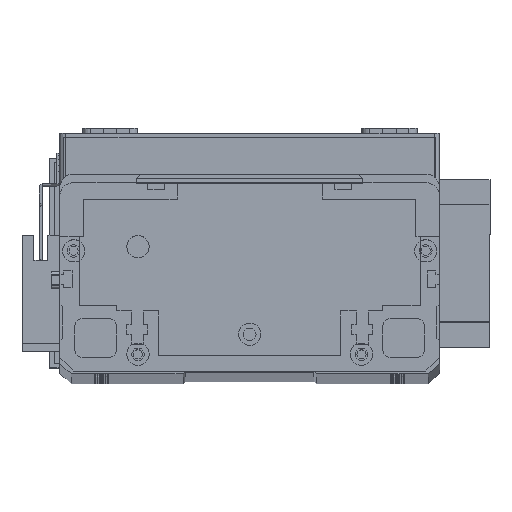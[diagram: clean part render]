
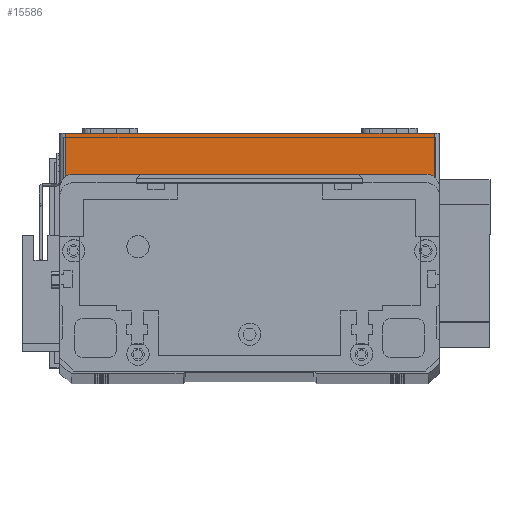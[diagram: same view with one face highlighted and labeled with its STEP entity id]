
A CAD part, top view. The second image highlights one B-rep face of the part: STEP entity #15586.
In plain terms, the highlighted planar face has unit normal (0, 0, 1) as drawn and (0, -1, 0) by its records, which use the part's own axes.
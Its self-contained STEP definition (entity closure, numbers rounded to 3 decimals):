
#287 = DIRECTION ( 'NONE',  ( 0., 0., 1. ) ) ;
#359 = DIRECTION ( 'NONE',  ( 0., 1., 0. ) ) ;
#469 = VERTEX_POINT ( 'NONE', #19975 ) ;
#1816 = EDGE_CURVE ( 'NONE', #12467, #21731, #5143, .T. ) ;
#3624 = CARTESIAN_POINT ( 'NONE',  ( 2., 0., 19.5 ) ) ;
#4940 = CARTESIAN_POINT ( 'NONE',  ( 0., 0., 19.5 ) ) ;
#5143 = LINE ( 'NONE', #21959, #17547 ) ;
#7215 = CARTESIAN_POINT ( 'NONE',  ( 134., 0., 19.5 ) ) ;
#7517 = VERTEX_POINT ( 'NONE', #17898 ) ;
#7663 = VECTOR ( 'NONE', #21412, 1000. ) ;
#8331 = CARTESIAN_POINT ( 'NONE',  ( 2., 0., 0. ) ) ;
#9082 = VECTOR ( 'NONE', #26171, 1000. ) ;
#9240 = EDGE_CURVE ( 'NONE', #21731, #7517, #16022, .T. ) ;
#9618 = PLANE ( 'NONE',  #28396 ) ;
#12467 = VERTEX_POINT ( 'NONE', #3624 ) ;
#14426 = EDGE_LOOP ( 'NONE', ( #27522, #14432, #26618, #15956 ) ) ;
#14432 = ORIENTED_EDGE ( 'NONE', *, *, #1816, .T. ) ;
#15341 = LINE ( 'NONE', #19018, #7663 ) ;
#15586 = ADVANCED_FACE ( 'NONE', ( #21245 ), #9618, .F. ) ;
#15956 = ORIENTED_EDGE ( 'NONE', *, *, #21430, .T. ) ;
#16022 = LINE ( 'NONE', #19141, #9082 ) ;
#16652 = DIRECTION ( 'NONE',  ( 0., 0., 1. ) ) ;
#17547 = VECTOR ( 'NONE', #26629, 1000. ) ;
#17898 = CARTESIAN_POINT ( 'NONE',  ( 134., 0., 0. ) ) ;
#19018 = CARTESIAN_POINT ( 'NONE',  ( 0., 0., 19.5 ) ) ;
#19141 = CARTESIAN_POINT ( 'NONE',  ( 0., 0., 0. ) ) ;
#19975 = CARTESIAN_POINT ( 'NONE',  ( 134., 0., 19.5 ) ) ;
#21245 = FACE_OUTER_BOUND ( 'NONE', #14426, .T. ) ;
#21412 = DIRECTION ( 'NONE',  ( 1., 0., 0. ) ) ;
#21430 = EDGE_CURVE ( 'NONE', #7517, #469, #26016, .T. ) ;
#21731 = VERTEX_POINT ( 'NONE', #8331 ) ;
#21959 = CARTESIAN_POINT ( 'NONE',  ( 2., 0., 19.5 ) ) ;
#26016 = LINE ( 'NONE', #7215, #30041 ) ;
#26171 = DIRECTION ( 'NONE',  ( 1., 0., 0. ) ) ;
#26618 = ORIENTED_EDGE ( 'NONE', *, *, #9240, .T. ) ;
#26629 = DIRECTION ( 'NONE',  ( 0., 0., -1. ) ) ;
#27522 = ORIENTED_EDGE ( 'NONE', *, *, #28803, .F. ) ;
#28396 = AXIS2_PLACEMENT_3D ( 'NONE', #4940, #359, #16652 ) ;
#28803 = EDGE_CURVE ( 'NONE', #12467, #469, #15341, .T. ) ;
#30041 = VECTOR ( 'NONE', #287, 1000. ) ;
